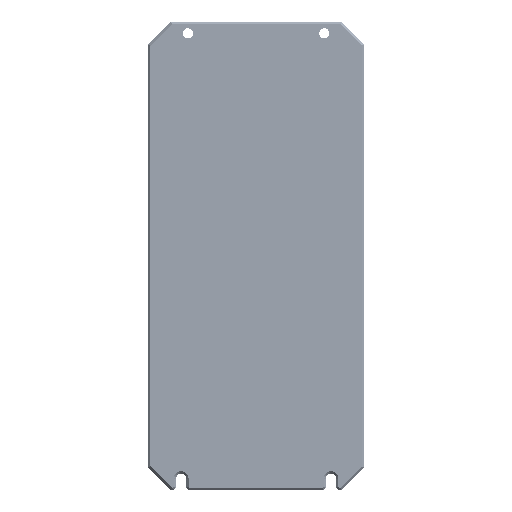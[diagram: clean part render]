
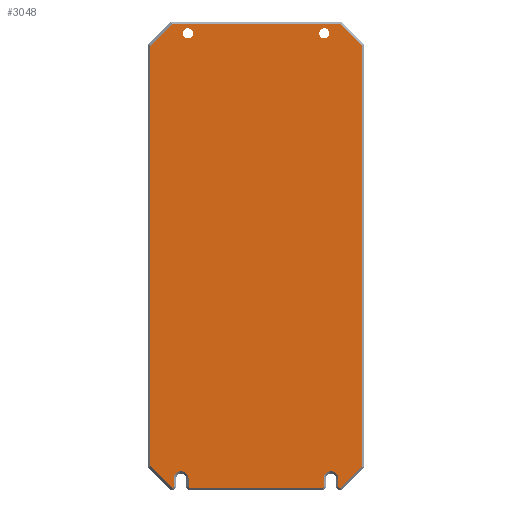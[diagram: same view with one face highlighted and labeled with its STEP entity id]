
A CAD part, front view. The second image highlights one B-rep face of the part: STEP entity #3048.
In plain terms, the highlighted planar face has unit normal (0, -1, 0).
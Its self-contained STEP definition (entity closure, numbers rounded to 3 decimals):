
#227=CARTESIAN_POINT('',(-30.,-10.,98.5));
#228=DIRECTION('',(0.,1.,0.));
#229=DIRECTION('',(1.,0.,0.));
#230=AXIS2_PLACEMENT_3D('',#227,#228,#229);
#235=CARTESIAN_POINT('',(-30.,-10.,98.5));
#236=DIRECTION('',(0.,1.,0.));
#237=DIRECTION('',(-1.,0.,0.));
#238=AXIS2_PLACEMENT_3D('',#235,#236,#237);
#243=CARTESIAN_POINT('',(30.,-10.,98.5));
#244=DIRECTION('',(0.,1.,0.));
#245=DIRECTION('',(1.,0.,0.));
#246=AXIS2_PLACEMENT_3D('',#243,#244,#245);
#251=CARTESIAN_POINT('',(30.,-10.,98.5));
#252=DIRECTION('',(0.,1.,0.));
#253=DIRECTION('',(-1.,0.,0.));
#254=AXIS2_PLACEMENT_3D('',#251,#252,#253);
#259=DIRECTION('',(0.707,0.,-0.707));
#260=VECTOR('',#259,0.586);
#261=CARTESIAN_POINT('',(36.25,-10.,-101.086));
#262=LINE('',#261,#260);
#266=DIRECTION('',(0.,0.,-1.));
#267=VECTOR('',#266,3.586);
#268=CARTESIAN_POINT('',(36.25,-10.,-97.5));
#269=LINE('',#268,#267);
#273=CARTESIAN_POINT('',(33.,-10.,-97.5));
#274=DIRECTION('',(0.,1.,0.));
#275=DIRECTION('',(-1.,0.,0.));
#276=AXIS2_PLACEMENT_3D('',#273,#274,#275);
#281=DIRECTION('',(0.,0.,1.));
#282=VECTOR('',#281,3.586);
#283=CARTESIAN_POINT('',(29.75,-10.,-101.086));
#284=LINE('',#283,#282);
#288=DIRECTION('',(0.707,0.,0.707));
#289=VECTOR('',#288,0.586);
#290=CARTESIAN_POINT('',(29.336,-10.,-101.5));
#291=LINE('',#290,#289);
#295=DIRECTION('',(1.,0.,0.));
#296=VECTOR('',#295,58.672);
#297=CARTESIAN_POINT('',(-29.336,-10.,-101.5));
#298=LINE('',#297,#296);
#302=DIRECTION('',(0.707,0.,-0.707));
#303=VECTOR('',#302,0.586);
#304=CARTESIAN_POINT('',(-29.75,-10.,-101.086));
#305=LINE('',#304,#303);
#309=DIRECTION('',(0.,0.,-1.));
#310=VECTOR('',#309,3.586);
#311=CARTESIAN_POINT('',(-29.75,-10.,-97.5));
#312=LINE('',#311,#310);
#316=CARTESIAN_POINT('',(-33.,-10.,-97.5));
#317=DIRECTION('',(0.,1.,0.));
#318=DIRECTION('',(-1.,0.,0.));
#319=AXIS2_PLACEMENT_3D('',#316,#317,#318);
#324=DIRECTION('',(0.,0.,1.));
#325=VECTOR('',#324,3.586);
#326=CARTESIAN_POINT('',(-36.25,-10.,-101.086));
#327=LINE('',#326,#325);
#331=DIRECTION('',(0.707,0.,0.707));
#332=VECTOR('',#331,0.586);
#333=CARTESIAN_POINT('',(-36.664,-10.,-101.5));
#334=LINE('',#333,#332);
#338=DIRECTION('',(1.,0.,0.));
#339=VECTOR('',#338,0.422);
#340=CARTESIAN_POINT('',(-37.086,-10.,-101.5));
#341=LINE('',#340,#339);
#345=DIRECTION('',(0.707,0.,-0.707));
#346=VECTOR('',#345,13.314);
#347=CARTESIAN_POINT('',(-46.5,-10.,-92.086));
#348=LINE('',#347,#346);
#352=DIRECTION('',(0.,0.,1.));
#353=VECTOR('',#352,185.172);
#354=CARTESIAN_POINT('',(-46.5,-10.,-92.086));
#355=LINE('',#354,#353);
#359=DIRECTION('',(-0.707,0.,-0.707));
#360=VECTOR('',#359,13.314);
#361=CARTESIAN_POINT('',(-37.086,-10.,102.5));
#362=LINE('',#361,#360);
#366=DIRECTION('',(1.,0.,0.));
#367=VECTOR('',#366,74.172);
#368=CARTESIAN_POINT('',(-37.086,-10.,102.5));
#369=LINE('',#368,#367);
#373=DIRECTION('',(-0.707,0.,0.707));
#374=VECTOR('',#373,13.314);
#375=CARTESIAN_POINT('',(46.5,-10.,93.086));
#376=LINE('',#375,#374);
#380=DIRECTION('',(0.,0.,-1.));
#381=VECTOR('',#380,185.172);
#382=CARTESIAN_POINT('',(46.5,-10.,93.086));
#383=LINE('',#382,#381);
#387=DIRECTION('',(0.707,0.,0.707));
#388=VECTOR('',#387,13.314);
#389=CARTESIAN_POINT('',(37.086,-10.,-101.5));
#390=LINE('',#389,#388);
#394=DIRECTION('',(1.,0.,0.));
#395=VECTOR('',#394,0.422);
#396=CARTESIAN_POINT('',(36.664,-10.,-101.5));
#397=LINE('',#396,#395);
#2855=CARTESIAN_POINT('',(-27.75,-10.,98.5));
#2856=CARTESIAN_POINT('',(-32.25,-10.,98.5));
#2857=VERTEX_POINT('',#2855);
#2858=VERTEX_POINT('',#2856);
#2859=CARTESIAN_POINT('',(32.25,-10.,98.5));
#2860=CARTESIAN_POINT('',(27.75,-10.,98.5));
#2861=VERTEX_POINT('',#2859);
#2862=VERTEX_POINT('',#2860);
#2879=CARTESIAN_POINT('',(36.25,-10.,-101.086));
#2880=CARTESIAN_POINT('',(36.664,-10.,-101.5));
#2881=VERTEX_POINT('',#2879);
#2882=VERTEX_POINT('',#2880);
#2889=CARTESIAN_POINT('',(37.086,-10.,-101.5));
#2890=VERTEX_POINT('',#2889);
#2893=CARTESIAN_POINT('',(46.5,-10.,-92.086));
#2894=VERTEX_POINT('',#2893);
#2895=CARTESIAN_POINT('',(46.5,-10.,93.086));
#2896=VERTEX_POINT('',#2895);
#2901=CARTESIAN_POINT('',(37.086,-10.,102.5));
#2902=VERTEX_POINT('',#2901);
#2903=CARTESIAN_POINT('',(-37.086,-10.,102.5));
#2904=VERTEX_POINT('',#2903);
#2907=CARTESIAN_POINT('',(-46.5,-10.,93.086));
#2908=VERTEX_POINT('',#2907);
#2911=CARTESIAN_POINT('',(-46.5,-10.,-92.086));
#2912=VERTEX_POINT('',#2911);
#2915=CARTESIAN_POINT('',(-37.086,-10.,-101.5));
#2916=VERTEX_POINT('',#2915);
#2921=CARTESIAN_POINT('',(-36.664,-10.,-101.5));
#2922=VERTEX_POINT('',#2921);
#2925=CARTESIAN_POINT('',(-36.25,-10.,-101.086));
#2926=VERTEX_POINT('',#2925);
#2931=CARTESIAN_POINT('',(-29.75,-10.,-97.5));
#2932=CARTESIAN_POINT('',(-29.75,-10.,-101.086));
#2933=VERTEX_POINT('',#2931);
#2934=VERTEX_POINT('',#2932);
#2935=CARTESIAN_POINT('',(-36.25,-10.,-97.5));
#2936=VERTEX_POINT('',#2935);
#2939=CARTESIAN_POINT('',(-29.336,-10.,-101.5));
#2940=VERTEX_POINT('',#2939);
#2945=CARTESIAN_POINT('',(29.336,-10.,-101.5));
#2946=VERTEX_POINT('',#2945);
#2949=CARTESIAN_POINT('',(29.75,-10.,-101.086));
#2950=VERTEX_POINT('',#2949);
#2953=CARTESIAN_POINT('',(36.25,-10.,-97.5));
#2954=VERTEX_POINT('',#2953);
#2955=CARTESIAN_POINT('',(29.75,-10.,-97.5));
#2956=VERTEX_POINT('',#2955);
#2990=CARTESIAN_POINT('',(0.,-10.,-92.5));
#2991=DIRECTION('',(0.,-1.,0.));
#2992=DIRECTION('',(1.,0.,0.));
#2993=AXIS2_PLACEMENT_3D('',#2990,#2991,#2992);
#2994=PLANE('',#2993);
#2996=ORIENTED_EDGE('',*,*,#2995,.F.);
#2998=ORIENTED_EDGE('',*,*,#2997,.F.);
#3000=ORIENTED_EDGE('',*,*,#2999,.F.);
#3002=ORIENTED_EDGE('',*,*,#3001,.F.);
#3004=ORIENTED_EDGE('',*,*,#3003,.F.);
#3006=ORIENTED_EDGE('',*,*,#3005,.F.);
#3008=ORIENTED_EDGE('',*,*,#3007,.F.);
#3010=ORIENTED_EDGE('',*,*,#3009,.F.);
#3012=ORIENTED_EDGE('',*,*,#3011,.F.);
#3014=ORIENTED_EDGE('',*,*,#3013,.F.);
#3016=ORIENTED_EDGE('',*,*,#3015,.F.);
#3018=ORIENTED_EDGE('',*,*,#3017,.F.);
#3020=ORIENTED_EDGE('',*,*,#3019,.F.);
#3021=ORIENTED_EDGE('',*,*,#2980,.T.);
#3023=ORIENTED_EDGE('',*,*,#3022,.F.);
#3025=ORIENTED_EDGE('',*,*,#3024,.T.);
#3027=ORIENTED_EDGE('',*,*,#3026,.F.);
#3029=ORIENTED_EDGE('',*,*,#3028,.T.);
#3031=ORIENTED_EDGE('',*,*,#3030,.F.);
#3033=ORIENTED_EDGE('',*,*,#3032,.F.);
#3034=EDGE_LOOP('',(#2996,#2998,#3000,#3002,#3004,#3006,#3008,#3010,#3012,#3014,
#3016,#3018,#3020,#3021,#3023,#3025,#3027,#3029,#3031,#3033));
#3035=FACE_OUTER_BOUND('',#3034,.F.);
#3037=ORIENTED_EDGE('',*,*,#3036,.F.);
#3039=ORIENTED_EDGE('',*,*,#3038,.F.);
#3040=EDGE_LOOP('',(#3037,#3039));
#3041=FACE_BOUND('',#3040,.F.);
#3043=ORIENTED_EDGE('',*,*,#3042,.F.);
#3045=ORIENTED_EDGE('',*,*,#3044,.F.);
#3046=EDGE_LOOP('',(#3043,#3045));
#3047=FACE_BOUND('',#3046,.F.);
#231=CIRCLE('',#230,2.25);
#239=CIRCLE('',#238,2.25);
#247=CIRCLE('',#246,2.25);
#255=CIRCLE('',#254,2.25);
#277=CIRCLE('',#276,3.25);
#320=CIRCLE('',#319,3.25);
#2980=EDGE_CURVE('',#2912,#2908,#355,.T.);
#2995=EDGE_CURVE('',#2881,#2882,#262,.T.);
#2997=EDGE_CURVE('',#2954,#2881,#269,.T.);
#2999=EDGE_CURVE('',#2956,#2954,#277,.T.);
#3001=EDGE_CURVE('',#2950,#2956,#284,.T.);
#3003=EDGE_CURVE('',#2946,#2950,#291,.T.);
#3005=EDGE_CURVE('',#2940,#2946,#298,.T.);
#3007=EDGE_CURVE('',#2934,#2940,#305,.T.);
#3009=EDGE_CURVE('',#2933,#2934,#312,.T.);
#3011=EDGE_CURVE('',#2936,#2933,#320,.T.);
#3013=EDGE_CURVE('',#2926,#2936,#327,.T.);
#3015=EDGE_CURVE('',#2922,#2926,#334,.T.);
#3017=EDGE_CURVE('',#2916,#2922,#341,.T.);
#3019=EDGE_CURVE('',#2912,#2916,#348,.T.);
#3022=EDGE_CURVE('',#2904,#2908,#362,.T.);
#3024=EDGE_CURVE('',#2904,#2902,#369,.T.);
#3026=EDGE_CURVE('',#2896,#2902,#376,.T.);
#3028=EDGE_CURVE('',#2896,#2894,#383,.T.);
#3030=EDGE_CURVE('',#2890,#2894,#390,.T.);
#3032=EDGE_CURVE('',#2882,#2890,#397,.T.);
#3036=EDGE_CURVE('',#2861,#2862,#247,.T.);
#3038=EDGE_CURVE('',#2862,#2861,#255,.T.);
#3042=EDGE_CURVE('',#2857,#2858,#231,.T.);
#3044=EDGE_CURVE('',#2858,#2857,#239,.T.);
#3048=ADVANCED_FACE('',(#3035,#3041,#3047),#2994,.T.);
